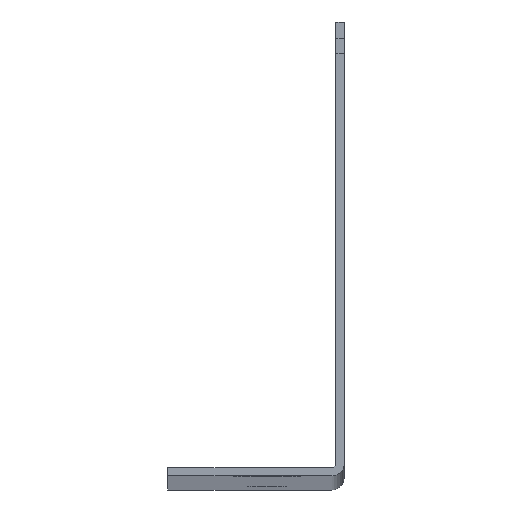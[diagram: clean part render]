
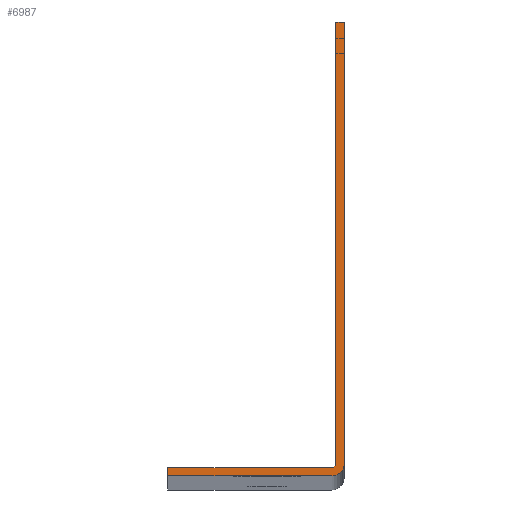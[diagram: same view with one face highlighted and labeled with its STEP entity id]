
A CAD part, top view. The second image highlights one B-rep face of the part: STEP entity #6987.
In plain terms, the highlighted planar face has unit normal (0, 0, 1).
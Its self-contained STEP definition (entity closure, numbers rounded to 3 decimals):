
#515=CIRCLE('',#7568,3.632);
#516=CIRCLE('',#7569,1.219);
#1085=ORIENTED_EDGE('',*,*,#2884,.F.);
#1086=ORIENTED_EDGE('',*,*,#2885,.F.);
#1087=ORIENTED_EDGE('',*,*,#2789,.F.);
#1088=ORIENTED_EDGE('',*,*,#2886,.T.);
#1089=ORIENTED_EDGE('',*,*,#2887,.T.);
#1090=ORIENTED_EDGE('',*,*,#2888,.T.);
#1091=ORIENTED_EDGE('',*,*,#2889,.T.);
#1092=ORIENTED_EDGE('',*,*,#2890,.T.);
#2789=EDGE_CURVE('',#3693,#3694,#4209,.T.);
#2884=EDGE_CURVE('',#3779,#3780,#4258,.T.);
#2885=EDGE_CURVE('',#3694,#3779,#515,.T.);
#2886=EDGE_CURVE('',#3693,#3781,#4259,.T.);
#2887=EDGE_CURVE('',#3781,#3782,#4260,.T.);
#2888=EDGE_CURVE('',#3782,#3783,#516,.F.);
#2889=EDGE_CURVE('',#3783,#3784,#4261,.T.);
#2890=EDGE_CURVE('',#3784,#3780,#4262,.T.);
#3693=VERTEX_POINT('',#10717);
#3694=VERTEX_POINT('',#10718);
#3779=VERTEX_POINT('',#10970);
#3780=VERTEX_POINT('',#10971);
#3781=VERTEX_POINT('',#10974);
#3782=VERTEX_POINT('',#10976);
#3783=VERTEX_POINT('',#10978);
#3784=VERTEX_POINT('',#10980);
#4209=LINE('',#10716,#4629);
#4258=LINE('',#10969,#4678);
#4259=LINE('',#10973,#4679);
#4260=LINE('',#10975,#4680);
#4261=LINE('',#10979,#4681);
#4262=LINE('',#10981,#4682);
#4629=VECTOR('',#8537,1000.);
#4678=VECTOR('',#8650,1000.);
#4679=VECTOR('',#8653,1000.);
#4680=VECTOR('',#8654,1000.);
#4681=VECTOR('',#8657,1000.);
#4682=VECTOR('',#8658,1000.);
#5177=EDGE_LOOP('',(#1085,#1086,#1087,#1088,#1089,#1090,#1091,#1092));
#6095=FACE_BOUND('',#5177,.T.);
#6815=PLANE('',#7567);
#6987=ADVANCED_FACE('',(#6095),#6815,.T.);
#7567=AXIS2_PLACEMENT_3D('',#10968,#8648,#8649);
#7568=AXIS2_PLACEMENT_3D('',#10972,#8651,#8652);
#7569=AXIS2_PLACEMENT_3D('',#10977,#8655,#8656);
#8537=DIRECTION('',(0.,-1.,0.));
#8648=DIRECTION('',(0.,0.,1.));
#8649=DIRECTION('',(1.,0.,0.));
#8650=DIRECTION('',(-1.,0.,0.));
#8651=DIRECTION('',(0.,0.,-1.));
#8652=DIRECTION('',(0.,1.,0.));
#8653=DIRECTION('',(-1.,0.,0.));
#8654=DIRECTION('',(0.,-1.,0.));
#8655=DIRECTION('',(0.,0.,1.));
#8656=DIRECTION('',(1.,0.,0.));
#8657=DIRECTION('',(-1.,0.,0.));
#8658=DIRECTION('',(0.,-1.,0.));
#10716=CARTESIAN_POINT('',(25.4,2.171,1156.081));
#10717=CARTESIAN_POINT('',(25.4,130.658,1156.081));
#10718=CARTESIAN_POINT('',(25.4,3.632,1156.081));
#10968=CARTESIAN_POINT('',(25.4,2.413,1156.081));
#10969=CARTESIAN_POINT('',(25.4,0.,1156.081));
#10970=CARTESIAN_POINT('',(21.768,0.,1156.081));
#10971=CARTESIAN_POINT('',(-25.4,0.,1156.081));
#10972=CARTESIAN_POINT('',(21.768,3.632,1156.081));
#10973=CARTESIAN_POINT('',(25.4,130.658,1156.081));
#10974=CARTESIAN_POINT('',(22.987,130.658,1156.081));
#10975=CARTESIAN_POINT('',(22.987,2.171,1156.081));
#10976=CARTESIAN_POINT('',(22.987,3.632,1156.081));
#10977=CARTESIAN_POINT('',(21.768,3.632,1156.081));
#10978=CARTESIAN_POINT('',(21.768,2.413,1156.081));
#10979=CARTESIAN_POINT('',(25.4,2.413,1156.081));
#10980=CARTESIAN_POINT('',(-25.4,2.413,1156.081));
#10981=CARTESIAN_POINT('',(-25.4,2.413,1156.081));
